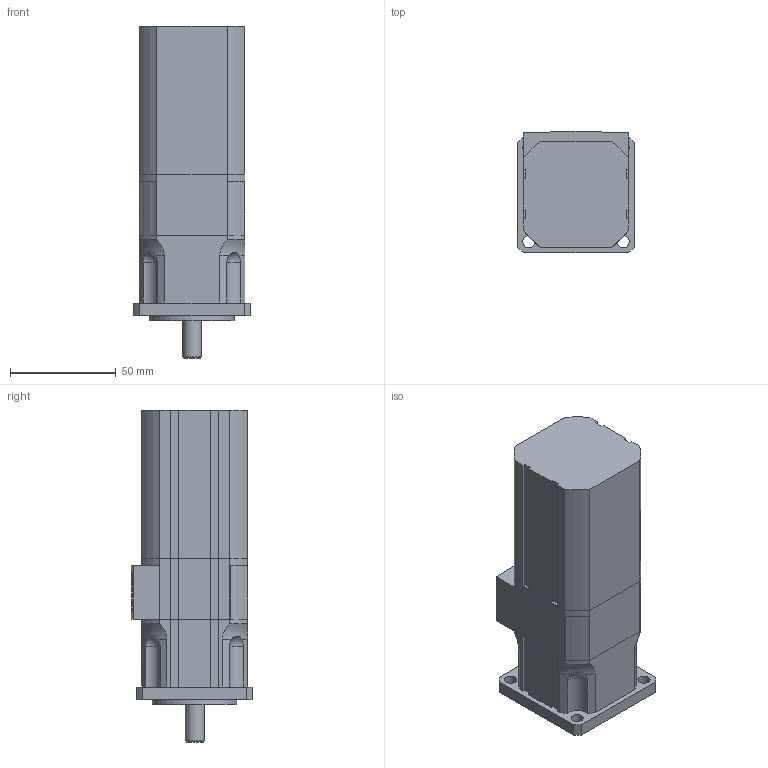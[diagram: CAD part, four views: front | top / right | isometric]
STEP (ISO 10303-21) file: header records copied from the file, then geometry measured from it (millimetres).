
FILE_DESCRIPTION(/* description */ ('Alibre Inc.'),/* implementation_level */ '2;1');
FILE_NAME(/* name */ 'export0',/* time_stamp */ '2011-03-11T07:46:40+01:00',/* author */ (''),/* organization */ (''),/* preprocessor_version */ 'ST-DEVELOPER v12',/* originating_system */ 'Alibre',/* authorisation */ '');
FILE_SCHEMA (('ALIBRE_SCHEMA','CONFIG_CONTROL_DESIGN'));
Length unit declared in the file: millimetre
Products named in the file (5): ID_1
Bounding box: 55 x 57.5 x 157 mm (x, y, z)
Volume: 408434.7 mm3; surface area: 55014 mm2
Topology: 4 solids, 4 shells, 163 faces, 420 edges, 271 vertices
Faces by surface type: plane 83, cylinder 63, bspline 8, sphere 4, torus 4, cone 1
Full cylindrical faces by diameter (mm): 2.7 x8, 9 x1, 20 x2, 24 x2, 26 x1, 40 x1
Entity records: 16681 total; most frequent: CARTESIAN_POINT 3874, DIRECTION 2108, ORIENTED_EDGE 2064, EDGE_CURVE 1032, AXIS2_PLACEMENT_3D 848, VERTEX_POINT 699, VECTOR 621, LINE 591
